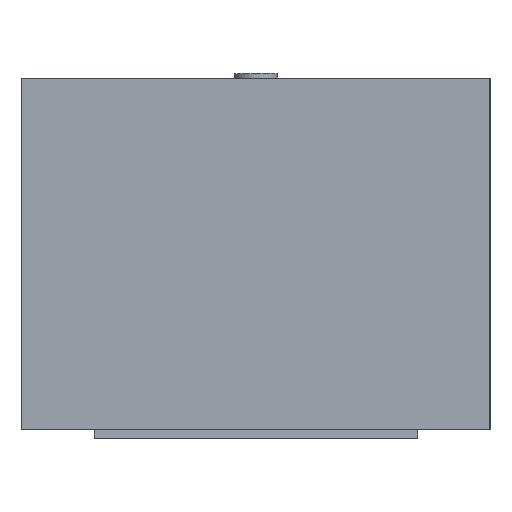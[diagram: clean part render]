
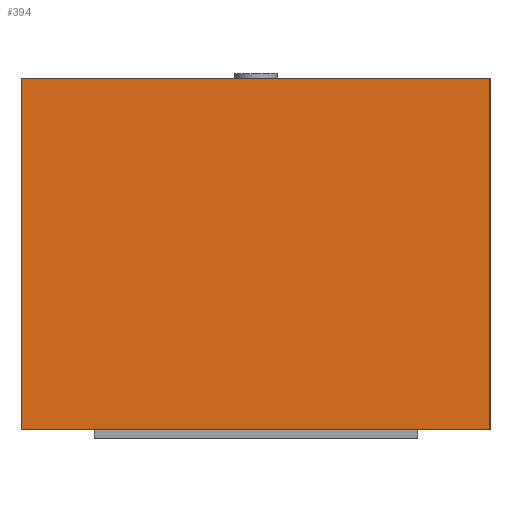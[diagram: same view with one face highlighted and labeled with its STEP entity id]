
A CAD part, left-side view. The second image highlights one B-rep face of the part: STEP entity #394.
In plain terms, the highlighted planar face has unit normal (-1, 0, 0).
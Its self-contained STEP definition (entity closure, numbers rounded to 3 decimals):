
#260=CARTESIAN_POINT('',(-0.305,-0.165,0.006));
#259=VERTEX_POINT('',#260);
#278=CARTESIAN_POINT('',(-0.305,-0.165,0.254));
#277=VERTEX_POINT('',#278);
#286=EDGE_CURVE('',#259,#277,#291,.T.);
#291=LINE('',#260,#293);
#293=VECTOR('',#294,0.248);
#294=DIRECTION('',(0.0,0.0,1.0));
#356=CARTESIAN_POINT('',(-0.305,0.165,0.006));
#355=VERTEX_POINT('',#356);
#366=CARTESIAN_POINT('',(-0.305,0.165,0.254));
#365=VERTEX_POINT('',#366);
#364=EDGE_CURVE('',#365,#355,#369,.T.);
#369=LINE('',#366,#371);
#371=VECTOR('',#372,0.248);
#372=DIRECTION('',(0.0,0.0,-1.0));
#394=ADVANCED_FACE('',(#400),#395,.T.);
#395=PLANE('',#396);
#396=AXIS2_PLACEMENT_3D('',#397,#398,#399);
#397=CARTESIAN_POINT('',(-0.305,0.165,0.006));
#398=DIRECTION('',(-1.0,0.0,0.0));
#399=DIRECTION('',(0.,0.,1.));
#400=FACE_OUTER_BOUND('',#401,.T.);
#401=EDGE_LOOP('',(#402,#412,#422,#432));
#403=EDGE_CURVE('',#259,#355,#408,.T.);
#408=LINE('',#260,#410);
#410=VECTOR('',#411,0.33);
#411=DIRECTION('',(0.0,1.0,0.0));
#402=ORIENTED_EDGE('',*,*,#403,.F.);
#412=ORIENTED_EDGE('',*,*,#286,.T.);
#423=EDGE_CURVE('',#365,#277,#428,.T.);
#428=LINE('',#366,#430);
#430=VECTOR('',#431,0.33);
#431=DIRECTION('',(0.0,-1.0,0.0));
#422=ORIENTED_EDGE('',*,*,#423,.F.);
#432=ORIENTED_EDGE('',*,*,#364,.T.);
